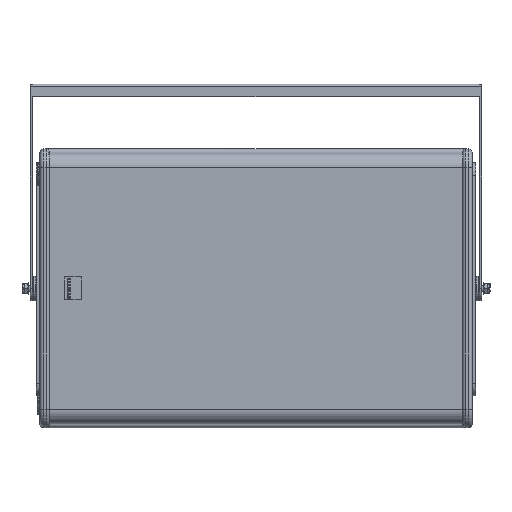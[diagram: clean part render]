
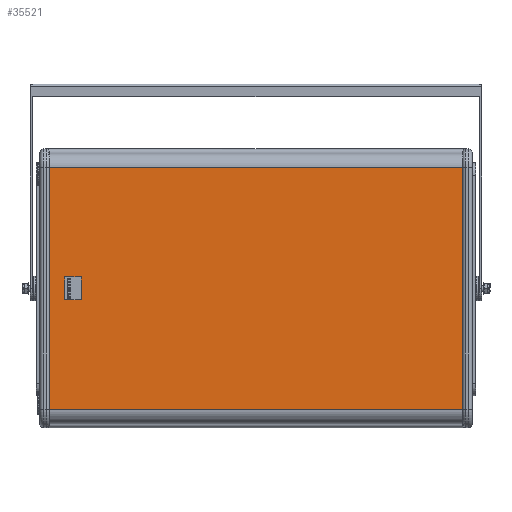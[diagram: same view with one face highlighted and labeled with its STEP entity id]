
A CAD part, top view. The second image highlights one B-rep face of the part: STEP entity #35521.
In plain terms, the highlighted planar face has unit normal (0, 0, 1) as drawn and (0, -1, 0) by its records, which use the part's own axes.
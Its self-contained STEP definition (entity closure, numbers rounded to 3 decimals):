
#6915 = VERTEX_POINT ( 'NONE', #14368 ) ;
#14368 = CARTESIAN_POINT ( 'NONE',  ( 1270., 6.5, -30. ) ) ;
#19709 = DIRECTION ( 'NONE',  ( 0., 0., -1. ) ) ;
#19710 = DIRECTION ( 'NONE',  ( 0., -1., 0. ) ) ;
#19711 = CARTESIAN_POINT ( 'NONE',  ( 1270., 6.5, -30. ) ) ;
#19712 = AXIS2_PLACEMENT_3D ( 'NONE', #19711, #19710, #19709 ) ;
#19713 = PLANE ( 'NONE',  #19712 ) ;
#19714 = FACE_OUTER_BOUND ( 'NONE', #35688, .T. ) ;
#19740 = DIRECTION ( 'NONE',  ( 1., 0., 0. ) ) ;
#19741 = VECTOR ( 'NONE', #19740, 1000. ) ;
#19742 = CARTESIAN_POINT ( 'NONE',  ( 1270., 6.5, -30. ) ) ;
#19746 = LINE ( 'NONE', #19742, #19741 ) ;
#19756 = CARTESIAN_POINT ( 'NONE',  ( 602., 6.5, -30. ) ) ;
#20152 = CARTESIAN_POINT ( 'NONE',  ( 1270., 6.5, -420. ) ) ;
#20181 = DIRECTION ( 'NONE',  ( 0., 0., -1. ) ) ;
#20182 = VECTOR ( 'NONE', #20181, 1000. ) ;
#20183 = CARTESIAN_POINT ( 'NONE',  ( 602., 6.5, -6.5 ) ) ;
#20189 = LINE ( 'NONE', #20183, #20182 ) ;
#20193 = DIRECTION ( 'NONE',  ( -1., 0., 0. ) ) ;
#20194 = VECTOR ( 'NONE', #20193, 1000. ) ;
#20195 = CARTESIAN_POINT ( 'NONE',  ( 1270., 6.5, -420. ) ) ;
#20196 = LINE ( 'NONE', #20195, #20194 ) ;
#20247 = CARTESIAN_POINT ( 'NONE',  ( 602., 6.5, -420. ) ) ;
#20249 = DIRECTION ( 'NONE',  ( 0., 0., -1. ) ) ;
#20250 = VECTOR ( 'NONE', #20249, 1000. ) ;
#20251 = CARTESIAN_POINT ( 'NONE',  ( 1270., 6.5, -225. ) ) ;
#20252 = LINE ( 'NONE', #20251, #20250 ) ;
#35521 = ADVANCED_FACE ( 'NONE', ( #19714 ), #19713, .T. ) ;
#35527 = VERTEX_POINT ( 'NONE', #19756 ) ;
#35534 = EDGE_CURVE ( 'NONE', #35527, #6915, #19746, .T. ) ;
#35641 = ORIENTED_EDGE ( 'NONE', *, *, #35534, .F. ) ;
#35642 = ORIENTED_EDGE ( 'NONE', *, *, #35721, .T. ) ;
#35645 = ORIENTED_EDGE ( 'NONE', *, *, #35716, .F. ) ;
#35688 = EDGE_LOOP ( 'NONE', ( #35693, #35641, #35642, #35645 ) ) ;
#35690 = VERTEX_POINT ( 'NONE', #20152 ) ;
#35693 = ORIENTED_EDGE ( 'NONE', *, *, #35763, .F. ) ;
#35716 = EDGE_CURVE ( 'NONE', #35690, #35723, #20196, .T. ) ;
#35721 = EDGE_CURVE ( 'NONE', #35527, #35723, #20189, .T. ) ;
#35723 = VERTEX_POINT ( 'NONE', #20247 ) ;
#35763 = EDGE_CURVE ( 'NONE', #6915, #35690, #20252, .T. ) ;
